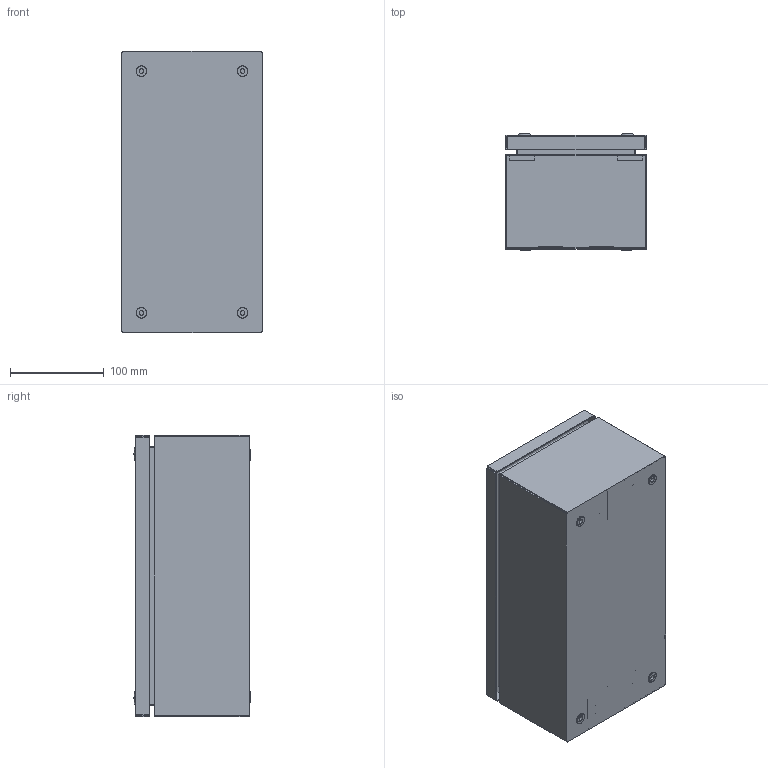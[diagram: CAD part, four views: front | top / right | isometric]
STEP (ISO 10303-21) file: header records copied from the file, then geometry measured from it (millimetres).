
FILE_DESCRIPTION(('Open CASCADE Model'),'2;1');
FILE_NAME('Open CASCADE Shape Model','2025-11-12T17:51:49',('Author'),( 'Open CASCADE'),'Open CASCADE STEP processor 7.8','Open CASCADE 7.8' ,'Unknown');
FILE_SCHEMA(('AUTOMOTIVE_DESIGN { 1 0 10303 214 1 1 1 1 }'));
Length unit declared in the file: millimetre
Products named in the file (16): Compound1; Compound2; Compound3; Solid1; Solid2; Solid3; Solid4; Solid5; Compound4; Compound5; Solid6; Solid7; Solid8; Solid9; Solid10; Solid11
Assembly tree (31 placements, depth 5):
  Compound1
    Compound2
      Compound3
        Solid1
        Solid2  x2
        Solid3  x2
        Solid4  x2
        Solid5
      Compound4
        Compound5
          Solid6
          Solid5
        Solid7
      Solid8  x4
      Solid9  x4
      Solid10  x4
    Solid11  x4
Bounding box: 150 x 123.79 x 300 mm (x, y, z)
Volume: 365433.3 mm3; surface area: 516478.7 mm2
Topology: 27 solids, 27 shells, 908 faces, 2444 edges, 1616 vertices
Faces by surface type: plane 668, cylinder 126, cone 46, bspline 32, torus 28, sphere 8
Full cylindrical faces by diameter (mm): 4 x10, 4.134 x4, 5 x8, 5.2 x4, 5.3 x4, 5.5 x4, 6 x2, 6.5 x4, 7.5 x6, 8 x8, 8.5 x4, 11.5 x4, 13.5 x4, 15.791 x4
Entity records: 14803 total; most frequent: CARTESIAN_POINT 4225, ORIENTED_EDGE 2214, DIRECTION 2004, EDGE_CURVE 1107, LINE 766, VECTOR 766, VERTEX_POINT 732, AXIS2_PLACEMENT_3D 619
